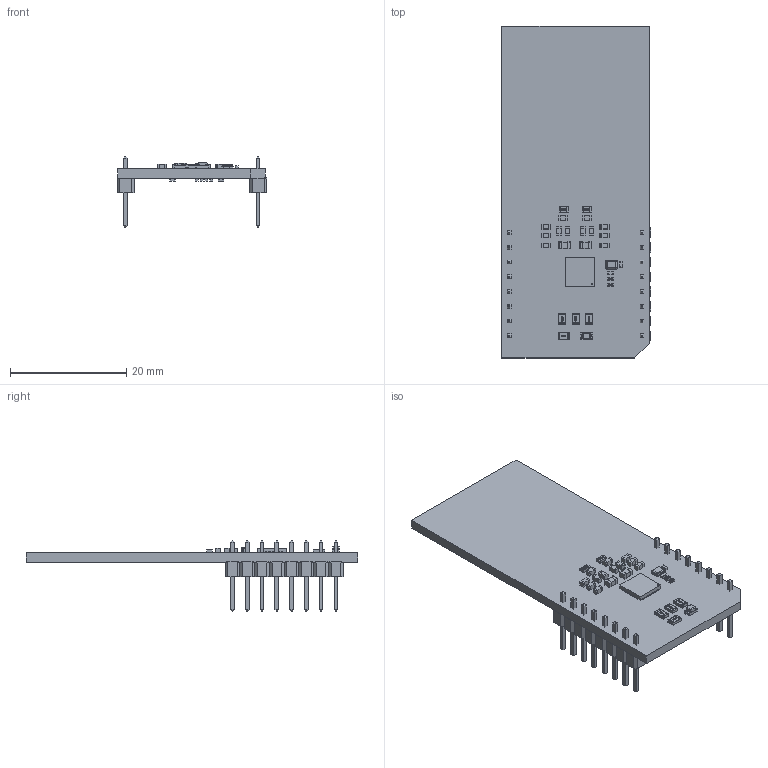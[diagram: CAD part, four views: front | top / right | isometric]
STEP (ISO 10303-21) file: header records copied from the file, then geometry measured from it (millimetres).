
FILE_DESCRIPTION(('Open CASCADE Model'),'2;1');
FILE_NAME('Open CASCADE Shape Model','2026-05-18T08:38:20',('Author'),( 'Open CASCADE'),'Open CASCADE STEP processor 7.5','Open CASCADE 7.5' ,'Unknown');
FILE_SCHEMA(('AUTOMOTIVE_DESIGN { 1 0 10303 214 1 1 1 1 }'));
Length unit declared in the file: millimetre
Products named in the file (63): PCB; Board; Open CASCADE STEP translator 7.5 1.1.1; C22; User Library-SMD CAPACITOR0603; C20; C5; User Library-SMD CAPACITOR0402; MBD_; Header 1x8; Free-Models; 1240637040; User_Library-PinHeaderX5-1_PinHeaderX5_Body_1; User_Library-PinHeaderX5-1_PinHeaderX5_Pins_1; LD1; led_0805_green; R1; User Library-R_0805; C1; C2; C3; C4; C6; C7; C8; C9; C10; C11; C12; C13; C14; C15; C16; C17; C18; C19; C27; C21; C26; C23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
Assembly tree (99 placements, depth 7):
  PCB
    Board
      Open CASCADE STEP translator 7.5 1.1.1
    C22
      User Library-SMD CAPACITOR0603
    C20
      User Library-SMD CAPACITOR0603
    C5
      User Library-SMD CAPACITOR0402
    MBD_
      Header 1x8  x2
        PCB
          Free-Models
            1240637040  x2
              User_Library-PinHeaderX5-1_PinHeaderX5_Body_1
              User_Library-PinHeaderX5-1_PinHeaderX5_Pins_1
    LD1
      led_0805_green
    R1
      User Library-R_0805
    C1
      User Library-SMD CAPACITOR0402
    C2
      User Library-SMD CAPACITOR0402
    C3
      User Library-SMD CAPACITOR0402
    C4
      User Library-SMD CAPACITOR0402
    C6
      User Library-SMD CAPACITOR0402
    C7
      User Library-SMD CAPACITOR0402
    C8
      User Library-SMD CAPACITOR0402
    C9
      User Library-SMD CAPACITOR0402
    C10
      User Library-SMD CAPACITOR0402
    C11
      User Library-SMD CAPACITOR0402
    C12
      User Library-SMD CAPACITOR0402
    C13
      User Library-SMD CAPACITOR0402
    C14
      User Library-SMD CAPACITOR0402
    C15
      User Library-SMD CAPACITOR0402
    C16
      User Library-SMD CAPACITOR0402
    C17
      User Library-SMD CAPACITOR0402
    C18
      User Library-SMD CAPACITOR0402
    C19
      User Library-SMD CAPACITOR0402
    C27
      User Library-SMD CAPACITOR0603
    C21
      User Library-SMD CAPACITOR0603
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Bounding box: 25.78 x 57.15 x 12.19 mm (x, y, z)
Volume: 2905.8 mm3; surface area: 4800.1 mm2
Topology: 77 solids, 77 shells, 2877 faces, 7070 edges, 4204 vertices
Faces by surface type: plane 1734, cylinder 559, bspline 310, sphere 272, cone 2
Entity records: 38920 total; most frequent: CARTESIAN_POINT 11828, ORIENTED_EDGE 4422, DIRECTION 3833, EDGE_CURVE 2211, LINE 1827, VECTOR 1827, VERTEX_POINT 1426, AXIS2_PLACEMENT_3D 1003
